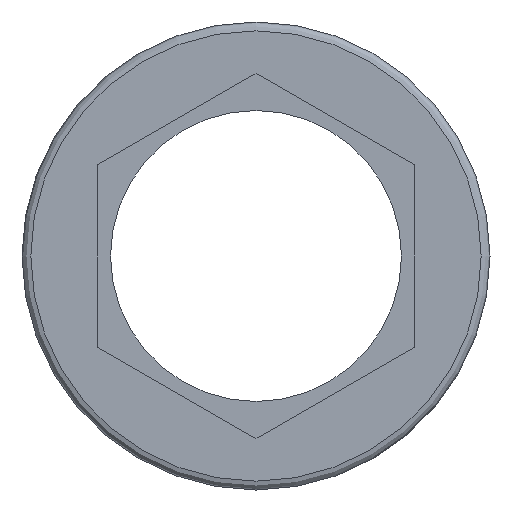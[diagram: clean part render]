
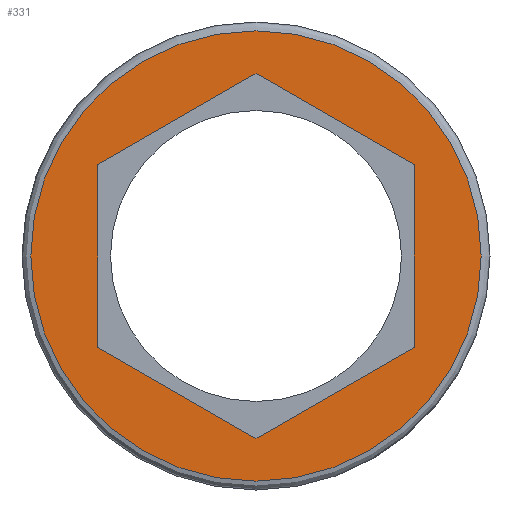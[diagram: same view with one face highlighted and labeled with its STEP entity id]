
A CAD part, front view. The second image highlights one B-rep face of the part: STEP entity #331.
In plain terms, the highlighted planar face has unit normal (0, -1, 0).
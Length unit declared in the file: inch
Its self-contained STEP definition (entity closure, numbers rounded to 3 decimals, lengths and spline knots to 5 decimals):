
#17=FACE_BOUND('',#108,.T.);
#22=PLANE('',#378);
#34=LINE('',#550,#57);
#35=LINE('',#552,#58);
#36=LINE('',#554,#59);
#37=LINE('',#556,#60);
#38=LINE('',#558,#61);
#39=LINE('',#559,#62);
#57=VECTOR('',#446,0.3937);
#58=VECTOR('',#447,0.3937);
#59=VECTOR('',#448,0.3937);
#60=VECTOR('',#449,0.3937);
#61=VECTOR('',#450,0.3937);
#62=VECTOR('',#451,0.3937);
#87=FACE_OUTER_BOUND('',#107,.T.);
#107=EDGE_LOOP('',(#253,#254));
#108=EDGE_LOOP('',(#255,#256,#257,#258,#259,#260));
#132=CIRCLE('',#370,0.178);
#136=CIRCLE('',#374,0.178);
#155=VERTEX_POINT('',#532);
#156=VERTEX_POINT('',#533);
#161=VERTEX_POINT('',#548);
#162=VERTEX_POINT('',#549);
#163=VERTEX_POINT('',#551);
#164=VERTEX_POINT('',#553);
#165=VERTEX_POINT('',#555);
#166=VERTEX_POINT('',#557);
#190=EDGE_CURVE('',#155,#156,#132,.T.);
#194=EDGE_CURVE('',#156,#155,#136,.T.);
#198=EDGE_CURVE('',#161,#162,#34,.T.);
#199=EDGE_CURVE('',#162,#163,#35,.T.);
#200=EDGE_CURVE('',#163,#164,#36,.T.);
#201=EDGE_CURVE('',#164,#165,#37,.T.);
#202=EDGE_CURVE('',#165,#166,#38,.T.);
#203=EDGE_CURVE('',#166,#161,#39,.T.);
#253=ORIENTED_EDGE('',*,*,#190,.F.);
#254=ORIENTED_EDGE('',*,*,#194,.F.);
#255=ORIENTED_EDGE('',*,*,#198,.T.);
#256=ORIENTED_EDGE('',*,*,#199,.T.);
#257=ORIENTED_EDGE('',*,*,#200,.T.);
#258=ORIENTED_EDGE('',*,*,#201,.T.);
#259=ORIENTED_EDGE('',*,*,#202,.T.);
#260=ORIENTED_EDGE('',*,*,#203,.T.);
#331=ADVANCED_FACE('',(#87,#17),#22,.T.);
#370=AXIS2_PLACEMENT_3D('',#534,#427,#428);
#374=AXIS2_PLACEMENT_3D('',#540,#435,#436);
#378=AXIS2_PLACEMENT_3D('',#547,#444,#445);
#427=DIRECTION('center_axis',(0.,1.,0.));
#428=DIRECTION('ref_axis',(0.,0.,1.));
#435=DIRECTION('center_axis',(0.,1.,0.));
#436=DIRECTION('ref_axis',(0.,0.,1.));
#444=DIRECTION('center_axis',(0.,-1.,0.));
#445=DIRECTION('ref_axis',(0.,0.,-1.));
#446=DIRECTION('',(0.866,0.,-0.5));
#447=DIRECTION('',(0.,0.,-1.));
#448=DIRECTION('',(-0.866,0.,-0.5));
#449=DIRECTION('',(-0.866,0.,0.5));
#450=DIRECTION('',(0.,0.,1.));
#451=DIRECTION('',(0.866,0.,0.5));
#532=CARTESIAN_POINT('',(0.,0.,-0.178));
#533=CARTESIAN_POINT('',(0.,0.,0.178));
#534=CARTESIAN_POINT('Origin',(0.,0.,0.));
#540=CARTESIAN_POINT('Origin',(0.,0.,0.));
#547=CARTESIAN_POINT('Origin',(0.,0.,-0.115));
#548=CARTESIAN_POINT('',(0.,0.,0.14434));
#549=CARTESIAN_POINT('',(0.125,0.,0.07217));
#550=CARTESIAN_POINT('',(0.05615,0.,0.11192));
#551=CARTESIAN_POINT('',(0.125,0.,-0.07217));
#552=CARTESIAN_POINT('',(0.125,0.,-0.02142));
#553=CARTESIAN_POINT('',(0.,0.,-0.14434));
#554=CARTESIAN_POINT('',(0.06885,0.,-0.10459));
#555=CARTESIAN_POINT('',(-0.125,0.,-0.07217));
#556=CARTESIAN_POINT('',(-0.00635,0.,-0.14067));
#557=CARTESIAN_POINT('',(-0.125,0.,0.07217));
#558=CARTESIAN_POINT('',(-0.125,0.,-0.09358));
#559=CARTESIAN_POINT('',(-0.11865,0.,0.07584));
